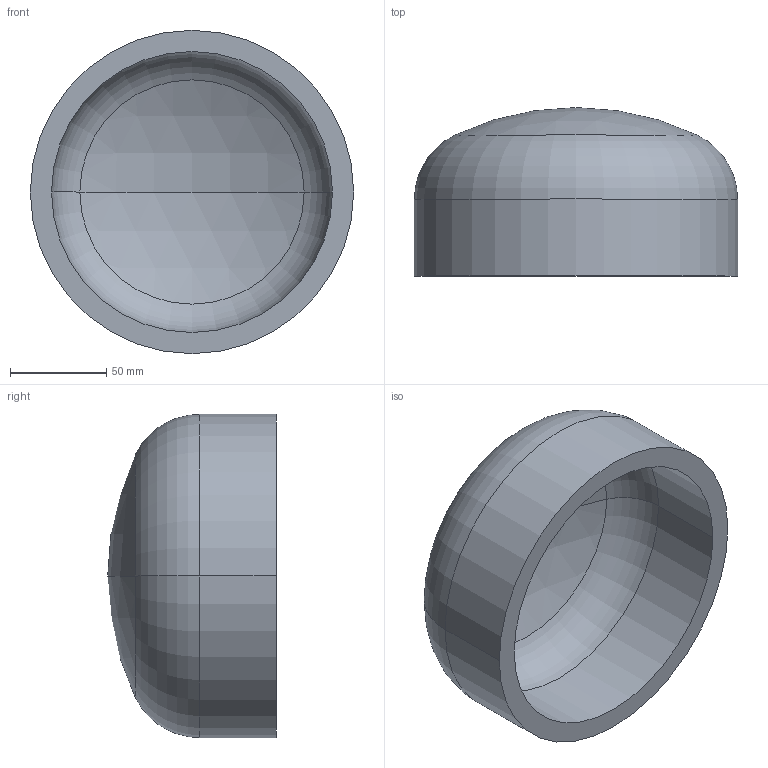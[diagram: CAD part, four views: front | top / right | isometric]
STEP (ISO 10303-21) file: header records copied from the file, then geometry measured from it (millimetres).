
FILE_DESCRIPTION (( 'STEP AP203' ), '1' );
FILE_NAME ('DIN 28013 Korbbogenform_-_Boden DIN 28013 - 168,3 x 40 - I - s=11.step', '2016-07-01T07:41:34', ( '' ), ( '' ), 'SwSTEP 2.0', 'SolidWorks 2013', '' );
FILE_SCHEMA (( 'CONFIG_CONTROL_DESIGN' ));
Length unit declared in the file: millimetre
Products named in the file (1): DIN 28013 Korbbogenform_-_Boden DIN 28013 - 168,3 x 40 - I - s=11
Bounding box: 168.3 x 87.73 x 168.3 mm (x, y, z)
Volume: 529538.9 mm3; surface area: 101969.1 mm2
Topology: 1 solids, 1 shells, 13 faces, 24 edges, 14 vertices
Faces by surface type: torus 4, cylinder 4, sphere 4, plane 1
Entity records: 407 total; most frequent: DIRECTION 72, CARTESIAN_POINT 52, ORIENTED_EDGE 48, AXIS2_PLACEMENT_3D 34, EDGE_CURVE 24, CIRCLE 20, VERTEX_POINT 14, EDGE_LOOP 14
